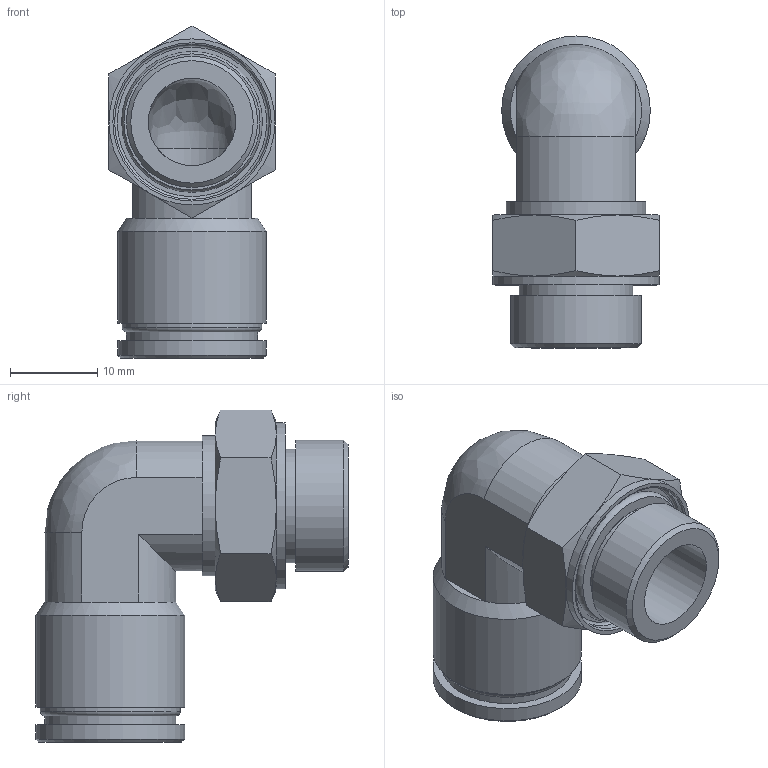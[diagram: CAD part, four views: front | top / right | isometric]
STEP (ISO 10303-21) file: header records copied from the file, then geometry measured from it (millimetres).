
FILE_DESCRIPTION(/* description */ (''),/* implementation_level */ '2;1');
FILE_NAME(/* name */ 'LXH28 0012 B3.stp',/* time_stamp */ '2026-04-30T12:23:15+02:00',/* author */ ('freju'),/* organization */ (''),/* preprocessor_version */ 'ST-DEVELOPER v20.1',/* originating_system */ 'Autodesk Inventor 2026',/* authorisation */ '');
FILE_SCHEMA (('AUTOMOTIVE_DESIGN { 1 0 10303 214 3 1 1 }'));
Length unit declared in the file: millimetre
Products named in the file (4): LXH28 0012 B3; LXH28 0012 B3_1; O-Ring; ISO 3601-1 - A 0125 G
Assembly tree (3 placements, depth 3):
  LXH28 0012 B3
    LXH28 0012 B3_1
    O-Ring
      ISO 3601-1 - A 0125 G
Bounding box: 19 x 35.7 x 37.97 mm (x, y, z)
Volume: 5983.6 mm3; surface area: 5528.9 mm2
Topology: 2 solids, 2 shells, 64 faces, 137 edges, 84 vertices
Faces by surface type: plane 23, cylinder 17, cone 15, torus 7, bspline 2
Full cylindrical faces by diameter (mm): 10 x2, 12 x1, 12.5 x1, 13 x1, 15 x2, 16 x2, 17 x2, 17.7 x1, 19 x1
Entity records: 1884 total; most frequent: CARTESIAN_POINT 372, DIRECTION 326, ORIENTED_EDGE 270, AXIS2_PLACEMENT_3D 146, EDGE_CURVE 135, VERTEX_POINT 84, EDGE_LOOP 77, CIRCLE 75
